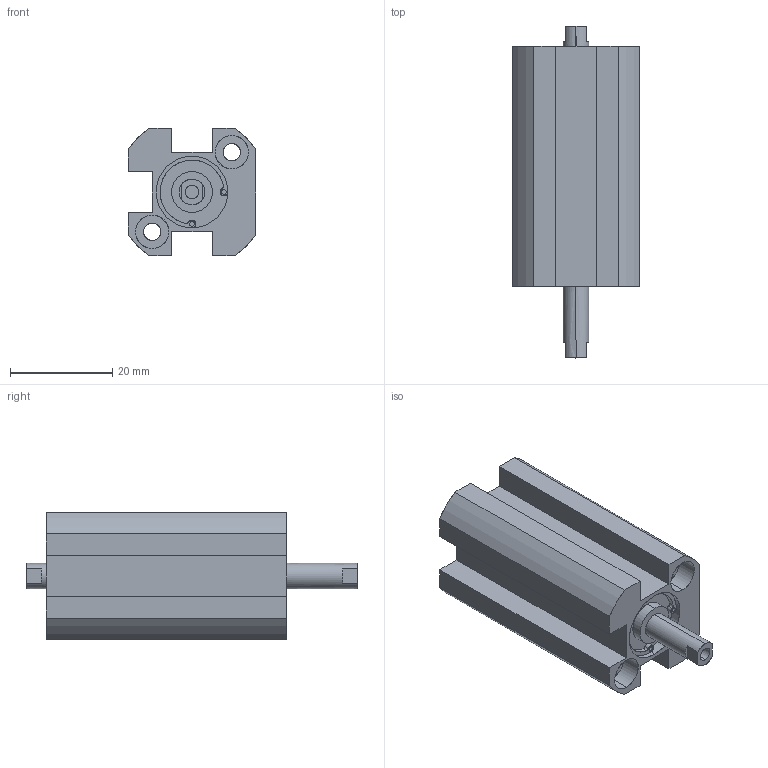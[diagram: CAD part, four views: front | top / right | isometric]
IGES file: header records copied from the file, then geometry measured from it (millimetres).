
Start section: SolidWorks IGES file using analytic representation for surfaces
Global section: file name: C:\Users\Toshiba\Desktop\XG#7-10D-10.IGS; native system: SolidWorks 2014; preprocessor: SolidWorks 2014; author: Toshiba; date: 160524.095527; units: millimetre
Bounding box: 25 x 65 x 25 mm (x, y, z)
Surface area: 8640.7 mm2 (no closed solid volume)
Topology: 0 solids, 0 shells, 106 faces, 1768 edges, 1764 vertices
Faces by surface type: revolution 62, bspline 44
